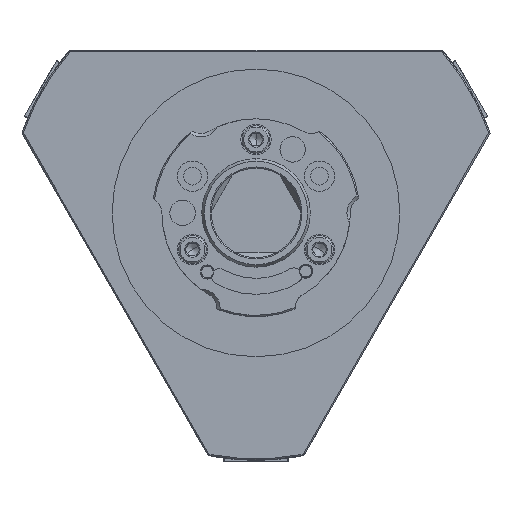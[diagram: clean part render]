
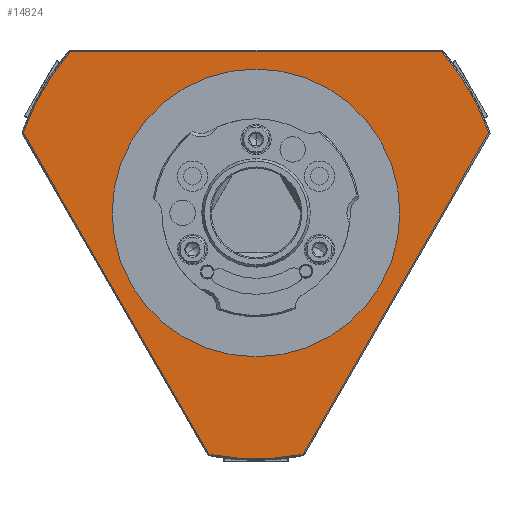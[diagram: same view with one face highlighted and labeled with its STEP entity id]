
A CAD part, front view. The second image highlights one B-rep face of the part: STEP entity #14824.
In plain terms, the highlighted planar face has unit normal (0, -1, 0).
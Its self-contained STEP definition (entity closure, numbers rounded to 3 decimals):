
#1900 = AXIS2_PLACEMENT_3D ( 'NONE', #27594, #40992, #44873 ) ;
#2818 = EDGE_CURVE ( 'NONE', #52489, #28437, #6276, .T. ) ;
#4259 = EDGE_CURVE ( 'NONE', #52788, #34503, #8002, .T. ) ;
#4837 = VERTEX_POINT ( 'NONE', #36901 ) ;
#5098 = DIRECTION ( 'NONE',  ( 0., 0., 1. ) ) ;
#5642 = CARTESIAN_POINT ( 'NONE',  ( 0., -24.5, 0. ) ) ;
#5983 = CARTESIAN_POINT ( 'NONE',  ( 63.35, -24.5, 8.525 ) ) ;
#6276 = LINE ( 'NONE', #5983, #42753 ) ;
#7076 = CARTESIAN_POINT ( 'NONE',  ( 0., -24.5, 45.1 ) ) ;
#8002 = CIRCLE ( 'NONE', #55240, 45.1 ) ;
#9090 = CIRCLE ( 'NONE', #41128, 77.1 ) ;
#9941 = ORIENTED_EDGE ( 'NONE', *, *, #4259, .T. ) ;
#10767 = DIRECTION ( 'NONE',  ( 0.5, 0., 0.866 ) ) ;
#11335 = CARTESIAN_POINT ( 'NONE',  ( 0., -24.5, -45.1 ) ) ;
#12965 = CARTESIAN_POINT ( 'NONE',  ( 0., -24.5, 50.6 ) ) ;
#13452 = LINE ( 'NONE', #46361, #30012 ) ;
#14824 = ADVANCED_FACE ( 'NONE', ( #33290, #19633 ), #36666, .T. ) ;
#15058 = CARTESIAN_POINT ( 'NONE',  ( 0., -24.5, 0. ) ) ;
#15593 = DIRECTION ( 'NONE',  ( 0., 0., 1. ) ) ;
#15848 = AXIS2_PLACEMENT_3D ( 'NONE', #7076, #28553, #20743 ) ;
#19633 = FACE_OUTER_BOUND ( 'NONE', #25367, .T. ) ;
#20141 = CARTESIAN_POINT ( 'NONE',  ( 0., -24.5, 0. ) ) ;
#20379 = EDGE_LOOP ( 'NONE', ( #9941, #48748 ) ) ;
#20743 = DIRECTION ( 'NONE',  ( 0., 0., -1. ) ) ;
#21020 = EDGE_CURVE ( 'NONE', #29735, #28437, #9090, .T. ) ;
#21517 = CIRCLE ( 'NONE', #1900, 77.1 ) ;
#23650 = CARTESIAN_POINT ( 'NONE',  ( 72.907, -24.5, 25.079 ) ) ;
#25367 = EDGE_LOOP ( 'NONE', ( #25742, #52223, #53800, #48121, #25606, #48162 ) ) ;
#25606 = ORIENTED_EDGE ( 'NONE', *, *, #21020, .F. ) ;
#25742 = ORIENTED_EDGE ( 'NONE', *, *, #26915, .F. ) ;
#26915 = EDGE_CURVE ( 'NONE', #49571, #45328, #48022, .T. ) ;
#27594 = CARTESIAN_POINT ( 'NONE',  ( 0., -24.5, 0. ) ) ;
#28236 = DIRECTION ( 'NONE',  ( 0., 0., 1. ) ) ;
#28437 = VERTEX_POINT ( 'NONE', #23650 ) ;
#28553 = DIRECTION ( 'NONE',  ( 0., -1., 0. ) ) ;
#28966 = CARTESIAN_POINT ( 'NONE',  ( 0., -24.5, 0. ) ) ;
#29735 = VERTEX_POINT ( 'NONE', #44470 ) ;
#30012 = VECTOR ( 'NONE', #30466, 1000. ) ;
#30466 = DIRECTION ( 'NONE',  ( 0.5, 0., -0.866 ) ) ;
#31234 = CIRCLE ( 'NONE', #51769, 45.1 ) ;
#32352 = DIRECTION ( 'NONE',  ( 0., 0., 1. ) ) ;
#32427 = DIRECTION ( 'NONE',  ( 0., 1., 0. ) ) ;
#33096 = CARTESIAN_POINT ( 'NONE',  ( -58.173, -24.5, 50.6 ) ) ;
#33290 = FACE_BOUND ( 'NONE', #20379, .T. ) ;
#33621 = EDGE_CURVE ( 'NONE', #29735, #45328, #51188, .T. ) ;
#34503 = VERTEX_POINT ( 'NONE', #11335 ) ;
#36666 = PLANE ( 'NONE',  #15848 ) ;
#36901 = CARTESIAN_POINT ( 'NONE',  ( -14.735, -24.5, -75.679 ) ) ;
#37729 = EDGE_CURVE ( 'NONE', #49571, #4837, #13452, .T. ) ;
#38674 = VECTOR ( 'NONE', #46433, 1000. ) ;
#40992 = DIRECTION ( 'NONE',  ( 0., 1., 0. ) ) ;
#41128 = AXIS2_PLACEMENT_3D ( 'NONE', #28966, #54371, #15593 ) ;
#41275 = DIRECTION ( 'NONE',  ( 0., 1., 0. ) ) ;
#41657 = CARTESIAN_POINT ( 'NONE',  ( -72.907, -24.5, 25.079 ) ) ;
#42753 = VECTOR ( 'NONE', #10767, 1000. ) ;
#43325 = DIRECTION ( 'NONE',  ( 0., 1., 0. ) ) ;
#44470 = CARTESIAN_POINT ( 'NONE',  ( 58.173, -24.5, 50.6 ) ) ;
#44515 = EDGE_CURVE ( 'NONE', #34503, #52788, #31234, .T. ) ;
#44873 = DIRECTION ( 'NONE',  ( 0., 0., 1. ) ) ;
#45328 = VERTEX_POINT ( 'NONE', #33096 ) ;
#45648 = EDGE_CURVE ( 'NONE', #52489, #4837, #21517, .T. ) ;
#46361 = CARTESIAN_POINT ( 'NONE',  ( -63.35, -24.5, 8.525 ) ) ;
#46433 = DIRECTION ( 'NONE',  ( -1., 0., 0. ) ) ;
#46815 = CARTESIAN_POINT ( 'NONE',  ( 14.735, -24.5, -75.679 ) ) ;
#48022 = CIRCLE ( 'NONE', #55166, 77.1 ) ;
#48121 = ORIENTED_EDGE ( 'NONE', *, *, #2818, .T. ) ;
#48162 = ORIENTED_EDGE ( 'NONE', *, *, #33621, .T. ) ;
#48748 = ORIENTED_EDGE ( 'NONE', *, *, #44515, .T. ) ;
#49571 = VERTEX_POINT ( 'NONE', #41657 ) ;
#51188 = LINE ( 'NONE', #12965, #38674 ) ;
#51769 = AXIS2_PLACEMENT_3D ( 'NONE', #5642, #43325, #5098 ) ;
#52223 = ORIENTED_EDGE ( 'NONE', *, *, #37729, .T. ) ;
#52489 = VERTEX_POINT ( 'NONE', #46815 ) ;
#52788 = VERTEX_POINT ( 'NONE', #54639 ) ;
#53800 = ORIENTED_EDGE ( 'NONE', *, *, #45648, .F. ) ;
#54371 = DIRECTION ( 'NONE',  ( 0., 1., 0. ) ) ;
#54639 = CARTESIAN_POINT ( 'NONE',  ( 0., -24.5, 45.1 ) ) ;
#55166 = AXIS2_PLACEMENT_3D ( 'NONE', #20141, #32427, #28236 ) ;
#55240 = AXIS2_PLACEMENT_3D ( 'NONE', #15058, #41275, #32352 ) ;
